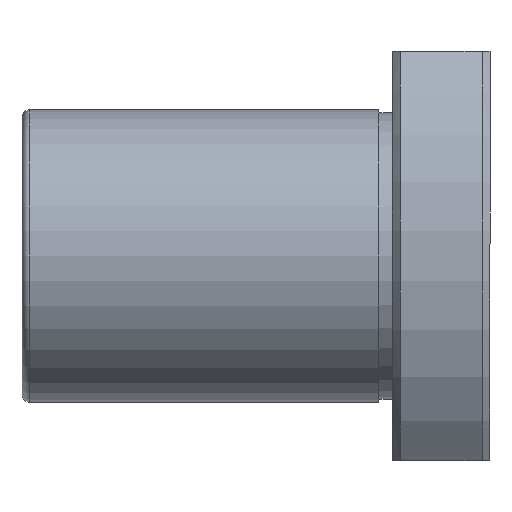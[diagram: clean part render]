
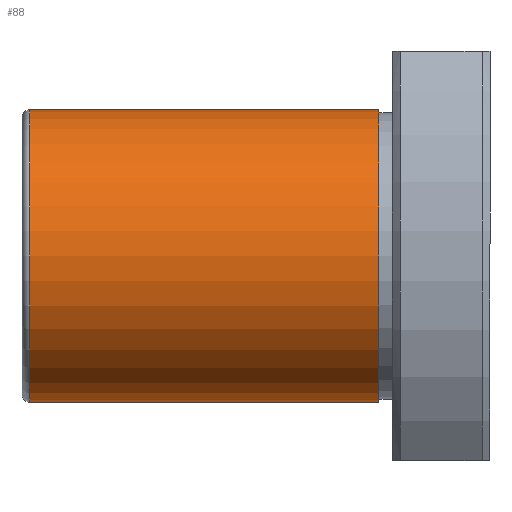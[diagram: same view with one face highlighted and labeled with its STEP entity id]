
A CAD part, front view. The second image highlights one B-rep face of the part: STEP entity #88.
In plain terms, the highlighted cylindrical face has radius 7.5 mm (diameter 15 mm), a full revolution.
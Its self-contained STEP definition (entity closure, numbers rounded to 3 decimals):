
#88=ADVANCED_FACE('',(#133,#134),#135,.T.);
#133=FACE_OUTER_BOUND('',#195,.T.);
#134=FACE_OUTER_BOUND('',#196,.T.);
#135=CYLINDRICAL_SURFACE('',#197,7.5);
#195=EDGE_LOOP('',(#308));
#196=EDGE_LOOP('',(#309));
#197=AXIS2_PLACEMENT_3D('',#310,#311,#312);
#308=ORIENTED_EDGE('',*,*,#397,.F.);
#309=ORIENTED_EDGE('',*,*,#391,.T.);
#310=CARTESIAN_POINT('',(-14.65,0.,0.));
#311=DIRECTION('',(-1.0,0.,0.));
#312=DIRECTION('',(0.,0.0,1.0));
#391=EDGE_CURVE('',#449,#449,#450,.T.);
#397=EDGE_CURVE('',#461,#461,#462,.T.);
#449=VERTEX_POINT('',#547);
#450=CIRCLE('',#548,7.5);
#461=VERTEX_POINT('',#559);
#462=CIRCLE('',#560,7.5);
#547=CARTESIAN_POINT('',(-5.7,0.,7.5));
#548=AXIS2_PLACEMENT_3D('',#617,#618,#619);
#559=CARTESIAN_POINT('',(-23.6,0.,7.5));
#560=AXIS2_PLACEMENT_3D('',#635,#636,#637);
#617=CARTESIAN_POINT('',(-5.7,0.,0.));
#618=DIRECTION('',(-1.0,0.,0.));
#619=DIRECTION('',(0.,0.0,1.0));
#635=CARTESIAN_POINT('',(-23.6,0.,0.));
#636=DIRECTION('',(-1.0,0.,0.));
#637=DIRECTION('',(0.,0.0,1.0));
